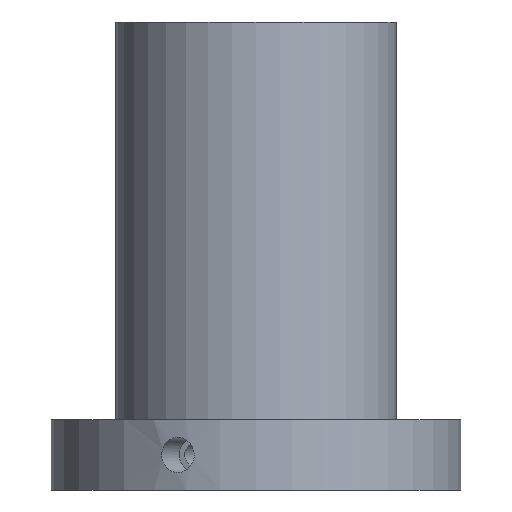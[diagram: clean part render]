
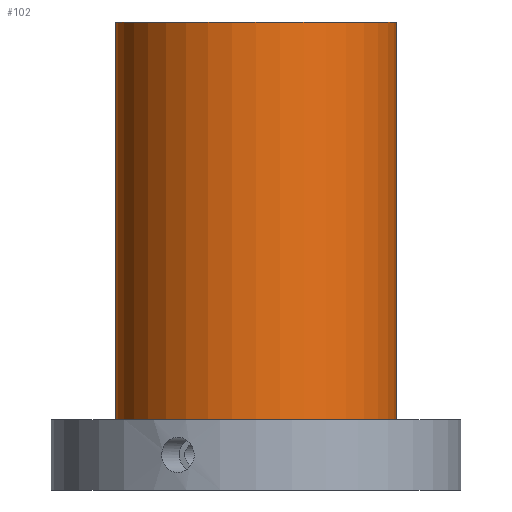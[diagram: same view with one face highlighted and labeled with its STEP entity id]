
A CAD part, front view. The second image highlights one B-rep face of the part: STEP entity #102.
In plain terms, the highlighted cylindrical face has radius 24 mm (diameter 48 mm), a full revolution.
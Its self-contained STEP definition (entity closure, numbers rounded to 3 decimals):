
#102=ADVANCED_FACE('',(#132,#133),#117,.T.);
#117=CYLINDRICAL_SURFACE('',#331,24.);
#132=FACE_BOUND('',#176,.T.);
#133=FACE_BOUND('',#177,.T.);
#176=EDGE_LOOP('',(#220));
#177=EDGE_LOOP('',(#221));
#220=ORIENTED_EDGE('',*,*,#286,.F.);
#221=ORIENTED_EDGE('',*,*,#287,.T.);
#264=VERTEX_POINT('',#499);
#265=VERTEX_POINT('',#501);
#286=EDGE_CURVE('',#264,#264,#307,.T.);
#287=EDGE_CURVE('',#265,#265,#308,.T.);
#307=CIRCLE('',#329,24.);
#308=CIRCLE('',#330,24.);
#329=AXIS2_PLACEMENT_3D('',#498,#369,#370);
#330=AXIS2_PLACEMENT_3D('',#500,#371,#372);
#331=AXIS2_PLACEMENT_3D('',#502,#373,#374);
#369=DIRECTION('',(0.,0.,-1.));
#370=DIRECTION('',(1.,0.,0.));
#371=DIRECTION('',(0.,0.,-1.));
#372=DIRECTION('',(1.,0.,0.));
#373=DIRECTION('',(0.,0.,-1.));
#374=DIRECTION('',(-1.,0.,0.));
#498=CARTESIAN_POINT('',(0.,0.,12.));
#499=CARTESIAN_POINT('',(24.,0.,12.));
#500=CARTESIAN_POINT('',(0.,0.,80.));
#501=CARTESIAN_POINT('',(24.,0.,80.));
#502=CARTESIAN_POINT('',(0.,0.,80.));
